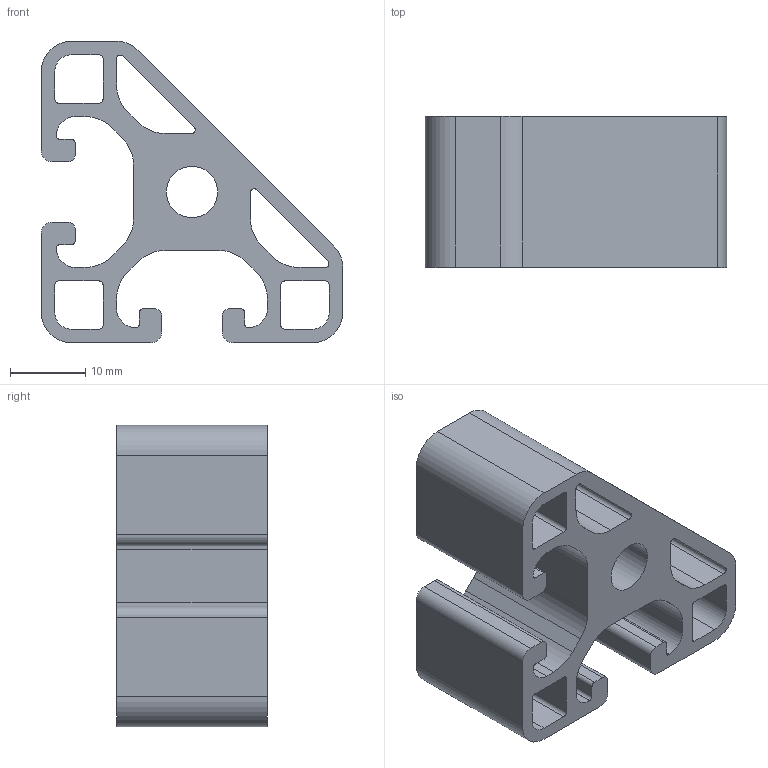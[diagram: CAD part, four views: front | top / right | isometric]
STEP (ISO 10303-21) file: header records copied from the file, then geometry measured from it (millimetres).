
FILE_DESCRIPTION(('STEP AP214'),'1');
FILE_NAME('cctmp_DBCAC23E-76C6-4EFD-98EC-92D043A312F5_2023_04_28_11_39_24_0632_1868..stp','2023-04-28T09:39:24',('item Industrietechnik GmbH'),('CADClick - www.CADClick.com'),'Spatial InterOp 3D',' ','unknown authorization');
FILE_SCHEMA(('AUTOMOTIVE_DESIGN'));
Length unit declared in the file: millimetre
Products named in the file (2): item_0040452_Profile 8 40x40-45° light_L=20; item_0040452_Profile 8 40x40-45° light_L=20_1
Assembly tree (1 placements, depth 2):
  item_0040452_Profile 8 40x40-45° light_L=20
    item_0040452_Profile 8 40x40-45° light_L=20_1
Bounding box: 40 x 20 x 40 mm (x, y, z)
Volume: 11281 mm3; surface area: 8952.6 mm2
Topology: 1 solids, 1 shells, 110 faces, 324 edges, 216 vertices
Faces by surface type: cylinder 55, plane 55
Entity records: 4653 total; most frequent: DIRECTION 658, CARTESIAN_POINT 652, ORIENTED_EDGE 648, EDGE_CURVE 324, AXIS2_PLACEMENT_3D 222, VERTEX_POINT 216, LINE 214, VECTOR 214
